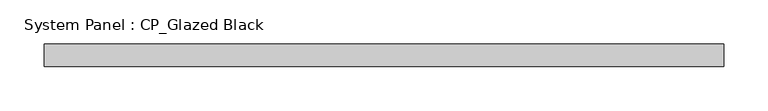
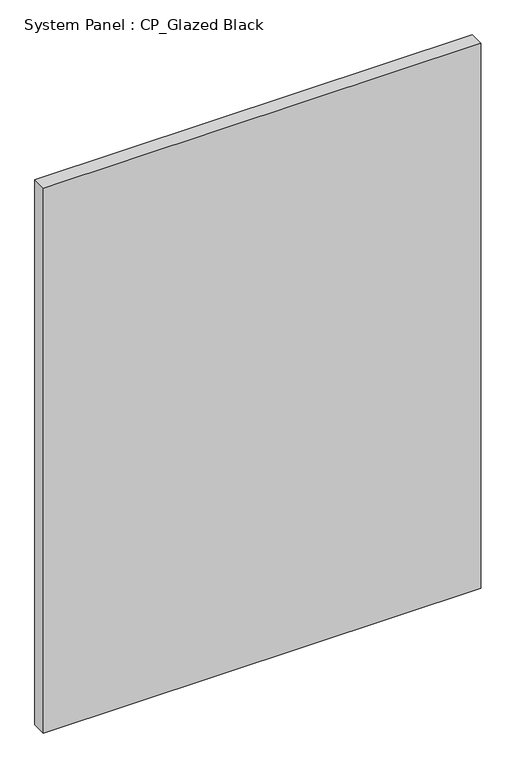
"""IFC4 building model written with IfcOpenShell, lengths in millimetres: plate geometry, System Panel : CP_Glazed Black."""

from ifc_helpers import new_model, si_unit, origin, origin_with_axes, place, context, project, spatial, polyline, outline, extrude, source, transform, mapped, element, save


def system_panel_cp_glazed_black_7ada5ffd(model_context):
    return source(origin(), model_context, "Body", "SweptSolid", [
        extrude(outline(polyline([(384.175, 19.05), (-384.175, 19.05), (-384.175, 44.45), (384.175, 44.45), (384.175, 19.05)])), origin_with_axes(), (0.0, 0.0, 1.0), 1012.03125),
    ])


if __name__ == "__main__":
    model = new_model("IFC4")
    model_context = context("Model", 3, world=origin())
    ifc_project = project(units=[si_unit("LENGTHUNIT", "METRE", prefix="MILLI")], contexts=[model_context])
    site = spatial("IfcSite", under=ifc_project)
    building = spatial("IfcBuilding", under=site)
    placement = place(None, origin())
    system_panel_cp_glazed_black_shape = system_panel_cp_glazed_black_7ada5ffd(model_context)
    element("IfcPlate", 1, ObjectType="System Panel : CP_Glazed Black", at=placement, inside=building, context=model_context, shape_type="MappedRepresentation", body=[
        mapped(system_panel_cp_glazed_black_shape, transform((0.0, 0.0, 0.0), x_axis=(1.0, 0.0, 0.0), y_axis=(0.0, 1.0, 0.0), z_axis=(0.0, 0.0, 1.0))),
    ])
    save(model, "model.ifc")
